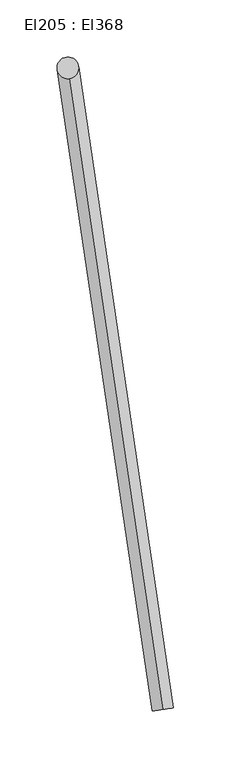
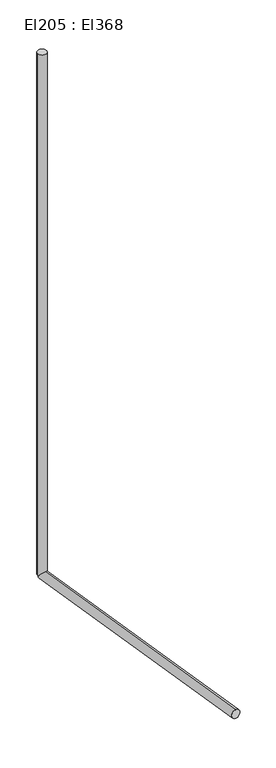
"""IFC4 building model written with IfcOpenShell, lengths in millimetres: cable carrier segment geometry, El205 : El368."""

import ifcopenshell
import ifcopenshell.guid

model = None  # the IFC model being written
_history = None  # IfcOwnerHistory: only IFC2X3 demands one
_inside = {}  # id of a spatial element -> (the spatial element, [elements in it])
_under = {}  # id of a project, library or spatial element -> (it, [spatial elements below it])
_declared = {}  # id of a project -> (the project, [libraries it declares])
_typed = {}  # id of a type object -> (the type object, [elements of that type])
_made_of = {}  # id of a material, layer set ... -> (it, [elements and type objects made of it])


def new_model(schema):
    """Start an empty IFC model of exactly this schema.

    Asked for "IFC4X3", IfcOpenShell would pick the latest addendum, in which some entities
    have other attributes; the version numbers below select the first issue.
    IFC2X3 requires an IfcOwnerHistory on every rooted entity: one is made here for all.
    """
    global model, _history
    if schema == "IFC4X3":
        model = ifcopenshell.file(schema_version=(4, 3, 0, 0))
    else:
        model = ifcopenshell.file(schema=schema)
    _inside.clear()
    _under.clear()
    _declared.clear()
    _typed.clear()
    _made_of.clear()
    _history = None
    if model.schema == "IFC2X3":
        org = make("IfcOrganization", Name="unknown")
        user = make(
            "IfcPersonAndOrganization",
            ThePerson=make("IfcPerson", FamilyName="unknown"),
            TheOrganization=org,
        )
        app = make(
            "IfcApplication",
            ApplicationDeveloper=org,
            Version="unknown",
            ApplicationFullName="unknown",
            ApplicationIdentifier="unknown",
        )
        _history = make(
            "IfcOwnerHistory",
            OwningUser=user,
            OwningApplication=app,
            ChangeAction="ADDED",
            CreationDate=0,
        )
    return model


def make(cls, **values):
    """One entity of the class cls with the attributes given. An attribute that is None is left unset."""
    return model.create_entity(
        cls, **{name: value for name, value in values.items() if value is not None}
    )


def rooted(cls, **values):
    """An entity with a GlobalId (a new one), such as an element, a storey or a relation."""
    return make(cls, GlobalId=ifcopenshell.guid.new(), OwnerHistory=_history, **values)


def si_unit(unit_type, name, prefix=None):
    """IfcSIUnit, for example si_unit("LENGTHUNIT", "METRE", prefix="MILLI")."""
    return make("IfcSIUnit", UnitType=unit_type, Prefix=prefix, Name=name)


def assignment(units):
    """IfcUnitAssignment: the units of a project."""
    return None if units is None else make("IfcUnitAssignment", Units=units)


def point(xyz):
    """IfcCartesianPoint."""
    return None if xyz is None else make("IfcCartesianPoint", Coordinates=xyz)


def direction(xyz):
    """IfcDirection."""
    return None if xyz is None else make("IfcDirection", DirectionRatios=xyz)


def frame(location, z_axis=None, x_axis=None):
    """IfcAxis2Placement3D, a coordinate frame: its origin and axes. An axis left out is left unset."""
    return make(
        "IfcAxis2Placement3D",
        Location=point(location),
        Axis=direction(z_axis),
        RefDirection=direction(x_axis),
    )


def frame_2d(location, x_axis=None):
    """IfcAxis2Placement2D, a coordinate frame in the plane: its origin and x axis."""
    return make(
        "IfcAxis2Placement2D", Location=point(location), RefDirection=direction(x_axis)
    )


def origin():
    """The frame at (0, 0, 0) with its axes left unset."""
    return frame((0.0, 0.0, 0.0))


def place(relative_to, where):
    """IfcLocalPlacement: puts the frame where relative to a parent placement (None: the world)."""
    return make(
        "IfcLocalPlacement", PlacementRelTo=relative_to, RelativePlacement=where
    )


def context(
    kind, dimensions, precision=None, world=None, true_north=None, identifier=None
):
    """IfcGeometricRepresentationContext, for example the 3D "Model" context."""
    return make(
        "IfcGeometricRepresentationContext",
        ContextIdentifier=identifier,
        ContextType=kind,
        CoordinateSpaceDimension=dimensions,
        Precision=precision,
        WorldCoordinateSystem=world,
        TrueNorth=true_north,
    )


def project(units=None, contexts=None):
    """IfcProject with its units and contexts."""
    return rooted(
        "IfcProject",
        Name="project",
        RepresentationContexts=contexts,
        UnitsInContext=assignment(units),
    )


def spatial(cls, under=None, at=None, **own):
    """A site, building, storey or space (cls), placed at a placement, below another one or the project."""
    s = rooted(cls, ObjectPlacement=at, **own)
    if under is not None:
        _under.setdefault(under.id(), (under, []))[1].append(s)
    return s


def circle_curve(where, radius):
    """IfcCircle in the frame where."""
    return make("IfcCircle", Position=where, Radius=radius)


def trimmed(basis, trim1, trim2, sense, master):
    """IfcTrimmedCurve: the piece of a basis curve between two trims."""
    return make(
        "IfcTrimmedCurve",
        BasisCurve=basis,
        Trim1=trim1,
        Trim2=trim2,
        SenseAgreement=sense,
        MasterRepresentation=master,
    )


def segment(curve, same_sense, transition):
    """IfcCompositeCurveSegment."""
    return make(
        "IfcCompositeCurveSegment",
        Transition=transition,
        SameSense=same_sense,
        ParentCurve=curve,
    )


def composite_curve(segments, self_intersect=None):
    """IfcCompositeCurve: segments joined end to end."""
    return make("IfcCompositeCurve", Segments=segments, SelfIntersect=self_intersect)


def outline(outer, holes=None, kind="AREA"):
    """IfcArbitraryClosedProfileDef: a profile drawn as a closed curve; with holes, ...WithVoids."""
    if holes is None:
        return make("IfcArbitraryClosedProfileDef", ProfileType=kind, OuterCurve=outer)
    return make(
        "IfcArbitraryProfileDefWithVoids",
        ProfileType=kind,
        OuterCurve=outer,
        InnerCurves=holes,
    )


def extrude(swept, where, along, depth):
    """IfcExtrudedAreaSolid: the profile swept, set in the frame where, extruded along a direction by depth."""
    return make(
        "IfcExtrudedAreaSolid",
        SweptArea=swept,
        Position=where,
        ExtrudedDirection=direction(along),
        Depth=depth,
    )


def shape(context_of_items, identifier, shape_type, items):
    """IfcShapeRepresentation: the items that make up one representation, for example the "Body"."""
    return make(
        "IfcShapeRepresentation",
        ContextOfItems=context_of_items,
        RepresentationIdentifier=identifier,
        RepresentationType=shape_type,
        Items=items,
    )


def source(mapping_origin, context_of_items, identifier, shape_type, items):
    """IfcRepresentationMap: a shape defined once, which mapped items show again and again."""
    return make(
        "IfcRepresentationMap",
        MappingOrigin=mapping_origin,
        MappedRepresentation=shape(context_of_items, identifier, shape_type, items),
    )


def transform(
    local_origin,
    x_axis=None,
    y_axis=None,
    z_axis=None,
    scale=None,
    scale2=None,
    scale3=None,
    uniform=True,
):
    """IfcCartesianTransformationOperator3D, or its non-uniform kind. x_axis, y_axis, z_axis: its Axis1, 2, 3."""
    if uniform:
        return make(
            "IfcCartesianTransformationOperator3D",
            Axis1=direction(x_axis),
            Axis2=direction(y_axis),
            LocalOrigin=point(local_origin),
            Scale=scale,
            Axis3=direction(z_axis),
        )
    return make(
        "IfcCartesianTransformationOperator3DnonUniform",
        Axis1=direction(x_axis),
        Axis2=direction(y_axis),
        LocalOrigin=point(local_origin),
        Scale=scale,
        Axis3=direction(z_axis),
        Scale2=scale2,
        Scale3=scale3,
    )


def mapped(mapping_source, mapping_target):
    """IfcMappedItem: shows the shape of a source again, moved by a transform."""
    return make(
        "IfcMappedItem", MappingSource=mapping_source, MappingTarget=mapping_target
    )


def made_of(thing, what):
    """Note that an element or type object is made of a material, layer set ...; save() writes the relation."""
    if what is not None:
        _made_of.setdefault(what.id(), (what, []))[1].append(thing)
    return thing


def element(
    cls,
    number,
    at=None,
    inside=None,
    cuts=None,
    type_object=None,
    material=None,
    context=None,
    identifier="Body",
    shape_type=None,
    held_by="IfcProductDefinitionShape",
    body=None,
    shapes=None,
    **own,
):
    """One element of the class cls, such as IfcWall. Its Tag is "e" and its number.

    at: its placement. inside: the storey or other place that contains it. cuts: it is an
    opening in that element (IfcRelVoidsElement). A single representation is given by context,
    identifier, shape_type and body (its items); several are given by shapes. held_by: the class
    of the entity that holds the representations. save() writes the other relations.
    """
    e = rooted(cls, Tag="e%d" % number, ObjectPlacement=at, **own)
    if body is not None:
        shapes = [shape(context, identifier, shape_type, body)]
    if shapes is not None:
        e.Representation = make(held_by, Representations=shapes)
    if inside is not None:
        _inside.setdefault(inside.id(), (inside, []))[1].append(e)
    if cuts is not None:
        rooted(
            "IfcRelVoidsElement", RelatingBuildingElement=cuts, RelatedOpeningElement=e
        )
    if type_object is not None:
        _typed.setdefault(type_object.id(), (type_object, []))[1].append(e)
    return made_of(e, material)


def aggregate(whole, parts):
    """IfcRelAggregates: a whole, such as a stair, and the parts it consists of."""
    return rooted("IfcRelAggregates", RelatingObject=whole, RelatedObjects=parts)


def save(model, path):
    """Write the relations noted so far, then the file.

    IfcRelAggregates (storeys below a building ...), IfcRelContainedInSpatialStructure (elements
    in a storey), IfcRelDefinesByType, IfcRelAssociatesMaterial and IfcRelDeclares: one each for
    every whole, place, type object, material and project.
    """
    for whole, parts in _under.values():
        aggregate(whole, parts)
    for where, things in _inside.values():
        rooted(
            "IfcRelContainedInSpatialStructure",
            RelatedElements=things,
            RelatingStructure=where,
        )
    for kind, things in _typed.values():
        rooted("IfcRelDefinesByType", RelatedObjects=things, RelatingType=kind)
    for what, things in _made_of.values():
        rooted("IfcRelAssociatesMaterial", RelatedObjects=things, RelatingMaterial=what)
    for by, libraries in _declared.values():
        rooted("IfcRelDeclares", RelatingContext=by, RelatedDefinitions=libraries)
    model.write(path)


def el205_el368_c1dd48bb(model_context):
    return source(origin(), model_context, "Body", "SweptSolid", [
        extrude(outline(composite_curve([segment(trimmed(circle_curve(frame_2d((9843.6504511, 66.0191745)), 9.5), [point((9834.1504511, 66.0191745))], [point((9853.1504511, 66.0191745))], False, "CARTESIAN"), True, "CONTINUOUS"), segment(trimmed(circle_curve(frame_2d((9843.6504511, 66.0191745)), 9.5), [point((9853.1504511, 66.0191745))], [point((9834.1504511, 66.0191745))], False, "CARTESIAN"), True, "CONTINUOUS")], self_intersect=False)), frame((0.0, 0.0, 1500.0), z_axis=(0.0, 0.0, 1.0), x_axis=(1.0, 0.0, 0.0)), (0.0, 0.0, 1.0), 1160.0),
        extrude(outline(composite_curve([segment(trimmed(circle_curve(frame_2d((0.0, -9.5)), 9.5), [point((0.0, -19.0))], [point((0.0, 0.0))], False, "CARTESIAN"), True, "CONTINUOUS"), segment(trimmed(circle_curve(frame_2d((0.0, -9.5)), 9.5), [point((0.0, 0.0))], [point((0.0, -19.0))], False, "CARTESIAN"), True, "CONTINUOUS")], self_intersect=False)), frame((9926.8010511, -496.0848255, 1509.5), z_axis=(-0.14633501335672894, 0.9892350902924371, 0.0), x_axis=(-0.9892350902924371, -0.14633501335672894, 0.0)), (0.0, 0.0, 1.0), 568.221),
    ])


if __name__ == "__main__":
    model = new_model("IFC4")
    model_context = context("Model", 3, world=origin())
    ifc_project = project(units=[si_unit("LENGTHUNIT", "METRE", prefix="MILLI")], contexts=[model_context])
    site = spatial("IfcSite", under=ifc_project)
    building = spatial("IfcBuilding", under=site)
    placement = place(None, origin())
    el205_el368_shape = el205_el368_c1dd48bb(model_context)
    element("IfcCableCarrierSegment", 1, ObjectType="El205 : El368", at=placement, inside=building, context=model_context, shape_type="MappedRepresentation", body=[
        mapped(el205_el368_shape, transform((0.0, 0.0, 0.0), x_axis=(1.0, 0.0, 0.0), y_axis=(0.0, 1.0, 0.0), z_axis=(0.0, 0.0, 1.0))),
    ])
    save(model, "model.ifc")
